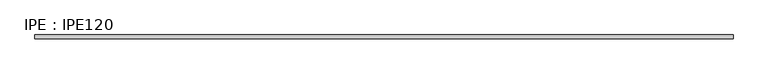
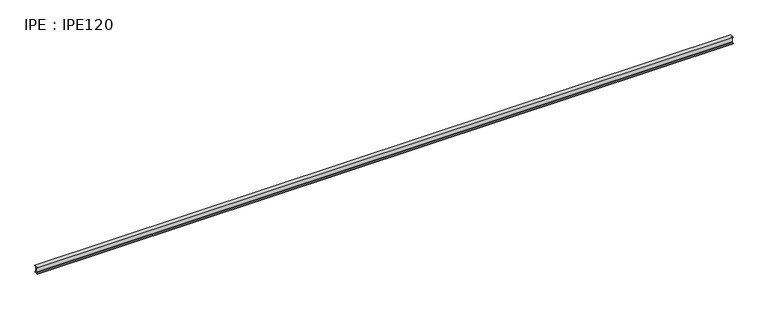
"""IFC4 building model written with IfcOpenShell, lengths in millimetres: beam geometry, IPE : IPE120."""

from ifc_helpers import new_model, si_unit, point, frame, frame_2d, origin, place, context, project, spatial, polyline, circle_curve, trimmed, segment, composite_curve, outline, extrude, source, transform, mapped, element, save


def ipe_ipe120_70a96d47(model_context):
    return source(origin(), model_context, "Body", "SweptSolid", [
        extrude(outline(composite_curve([segment(polyline([(-32.0, -53.7), (-9.2, -53.7)]), True, "CONTINUOUS"), segment(trimmed(circle_curve(frame_2d((-9.2, -46.7)), 7.0), [point((-9.2, -53.7))], [point((-2.2, -46.7))], True, "CARTESIAN"), True, "CONTINUOUS"), segment(polyline([(-2.2, -46.7), (-2.2, 46.7)]), True, "CONTINUOUS"), segment(trimmed(circle_curve(frame_2d((-9.2, 46.7)), 7.0), [point((-2.2, 46.7))], [point((-9.2, 53.7))], True, "CARTESIAN"), True, "CONTINUOUS"), segment(polyline([(-9.2, 53.7), (-32.0, 53.7), (-32.0, 60.0), (32.0, 60.0), (32.0, 53.7), (9.2, 53.7)]), True, "CONTINUOUS"), segment(trimmed(circle_curve(frame_2d((9.2, 46.7)), 7.0), [point((9.2, 53.7))], [point((2.2, 46.7))], True, "CARTESIAN"), True, "CONTINUOUS"), segment(polyline([(2.2, 46.7), (2.2, -46.7)]), True, "CONTINUOUS"), segment(trimmed(circle_curve(frame_2d((9.2, -46.7)), 7.0), [point((2.2, -46.7))], [point((9.2, -53.7))], True, "CARTESIAN"), True, "CONTINUOUS"), segment(polyline([(9.2, -53.7), (32.0, -53.7), (32.0, -60.0), (-32.0, -60.0), (-32.0, -53.7)]), True, "CONTINUOUS")], self_intersect=False)), frame((-5984.8, 0.0, 0.0), z_axis=(1.0, 0.0, 0.0), x_axis=(0.0, 1.0, 0.0)), (0.0, 0.0, 1.0), 12082.3),
    ])


if __name__ == "__main__":
    model = new_model("IFC4")
    model_context = context("Model", 3, world=origin())
    ifc_project = project(units=[si_unit("LENGTHUNIT", "METRE", prefix="MILLI")], contexts=[model_context])
    site = spatial("IfcSite", under=ifc_project)
    building = spatial("IfcBuilding", under=site)
    placement = place(None, origin())
    ipe_ipe120_shape = ipe_ipe120_70a96d47(model_context)
    element("IfcBeam", 1, ObjectType="IPE : IPE120", at=placement, inside=building, context=model_context, shape_type="MappedRepresentation", body=[
        mapped(ipe_ipe120_shape, transform((0.0, 0.0, 0.0), x_axis=(1.0, 0.0, 0.0), y_axis=(0.0, 1.0, 0.0), z_axis=(0.0, 0.0, 1.0))),
    ])
    save(model, "model.ifc")
